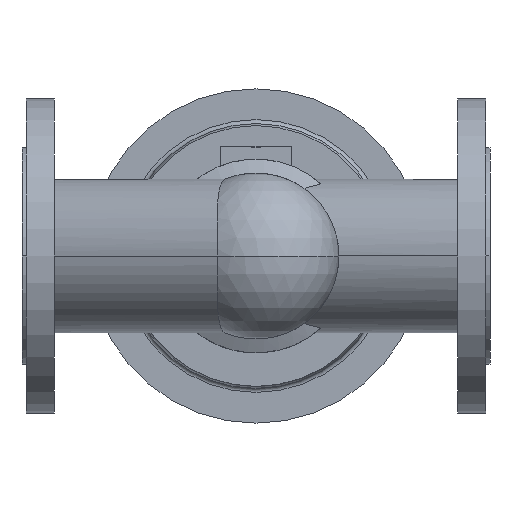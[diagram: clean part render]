
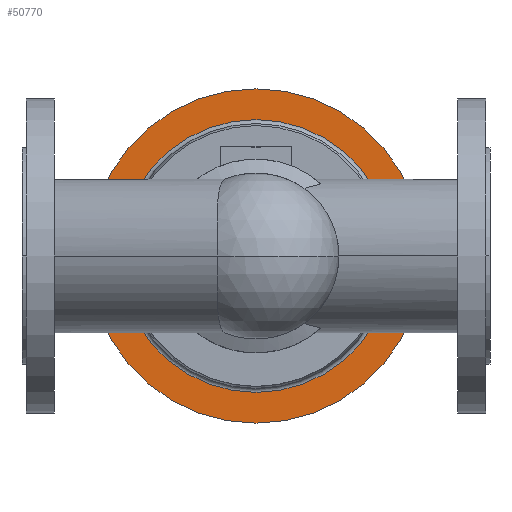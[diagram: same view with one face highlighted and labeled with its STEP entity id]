
A CAD part, front view. The second image highlights one B-rep face of the part: STEP entity #50770.
In plain terms, the highlighted planar face has unit normal (0, -1, 0).
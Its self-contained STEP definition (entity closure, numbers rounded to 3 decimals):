
#50230=CARTESIAN_POINT('',(277.,673.2,0.));
#50240=VERTEX_POINT('',#50230);
#50380=CARTESIAN_POINT('',(73.,673.2,0.));
#50390=VERTEX_POINT('',#50380);
#50420=CARTESIAN_POINT('',(175.,673.2,0.));
#50430=DIRECTION('',(0.,1.,0.));
#50440=DIRECTION('',(1.,0.,0.));
#50450=AXIS2_PLACEMENT_3D('',#50420,#50430,#50440);
#50460=CIRCLE('',#50450,102.);
#50470=EDGE_CURVE('',#50390,#50240,#50460,.T.);
#50520=CARTESIAN_POINT('',(288.5,673.2,0.));
#50530=DIRECTION('',(0.,-1.,0.));
#50540=DIRECTION('',(-1.,0.,0.));
#50550=AXIS2_PLACEMENT_3D('',#50520,#50530,#50540);
#50560=PLANE('',#50550);
#50570=CARTESIAN_POINT('',(175.,673.2,0.));
#50580=DIRECTION('',(0.,1.,0.));
#50590=DIRECTION('',(1.,0.,0.));
#50600=AXIS2_PLACEMENT_3D('',#50570,#50580,#50590);
#50610=CIRCLE('',#50600,125.);
#50620=CARTESIAN_POINT('',(300.,673.2,0.));
#50630=VERTEX_POINT('',#50620);
#50640=CARTESIAN_POINT('',(50.,673.2,0.));
#50650=VERTEX_POINT('',#50640);
#50660=EDGE_CURVE('',#50630,#50650,#50610,.T.);
#50670=ORIENTED_EDGE('',*,*,#50660,.F.);
#50680=EDGE_CURVE('',#50650,#50630,#50610,.T.);
#50690=ORIENTED_EDGE('',*,*,#50680,.F.);
#50700=EDGE_LOOP('',(#50690,#50670));
#50710=FACE_OUTER_BOUND('',#50700,.T.);
#50720=EDGE_CURVE('',#50240,#50390,#50460,.T.);
#50730=ORIENTED_EDGE('',*,*,#50720,.T.);
#50740=ORIENTED_EDGE('',*,*,#50470,.T.);
#50750=EDGE_LOOP('',(#50740,#50730));
#50760=FACE_BOUND('',#50750,.T.);
#50770=ADVANCED_FACE('',(#50710,#50760),#50560,.T.);
